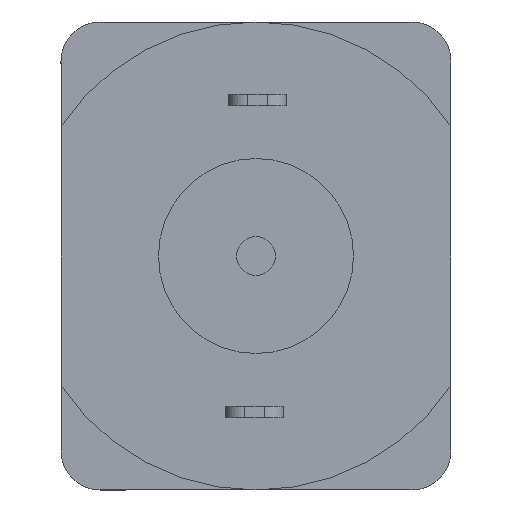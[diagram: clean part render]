
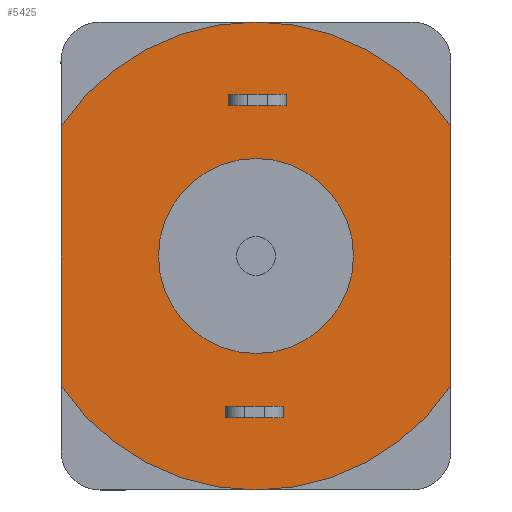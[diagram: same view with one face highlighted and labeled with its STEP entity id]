
A CAD part, front view. The second image highlights one B-rep face of the part: STEP entity #5425.
In plain terms, the highlighted planar face has unit normal (0, -1, 0).
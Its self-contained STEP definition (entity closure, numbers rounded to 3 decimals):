
#261=FACE_BOUND('',#1025,.T.);
#262=FACE_BOUND('',#1026,.T.);
#263=FACE_BOUND('',#1027,.T.);
#366=PLANE('',#6410);
#663=FACE_OUTER_BOUND('',#1024,.T.);
#1024=EDGE_LOOP('',(#4927,#4928,#4929,#4930));
#1025=EDGE_LOOP('',(#4931,#4932,#4933,#4934));
#1026=EDGE_LOOP('',(#4935,#4936,#4937,#4938));
#1027=EDGE_LOOP('',(#4939));
#1353=LINE('',#9746,#1718);
#1356=LINE('',#9752,#1721);
#1359=LINE('',#9758,#1724);
#1362=LINE('',#9762,#1727);
#1365=LINE('',#9770,#1730);
#1368=LINE('',#9776,#1733);
#1371=LINE('',#9782,#1736);
#1374=LINE('',#9786,#1739);
#1385=LINE('',#9828,#1750);
#1390=LINE('',#9842,#1755);
#1718=VECTOR('',#8110,10.);
#1721=VECTOR('',#8115,10.);
#1724=VECTOR('',#8120,10.);
#1727=VECTOR('',#8125,10.);
#1730=VECTOR('',#8130,10.);
#1733=VECTOR('',#8135,10.);
#1736=VECTOR('',#8140,10.);
#1739=VECTOR('',#8145,10.);
#1750=VECTOR('',#8190,10.);
#1755=VECTOR('',#8203,10.);
#2143=CIRCLE('',#6390,2.5);
#2148=CIRCLE('',#6403,6.);
#2150=CIRCLE('',#6407,6.);
#2623=VERTEX_POINT('',#9743);
#2624=VERTEX_POINT('',#9745);
#2626=VERTEX_POINT('',#9751);
#2628=VERTEX_POINT('',#9757);
#2631=VERTEX_POINT('',#9767);
#2632=VERTEX_POINT('',#9769);
#2634=VERTEX_POINT('',#9775);
#2636=VERTEX_POINT('',#9781);
#2640=VERTEX_POINT('',#9796);
#2649=VERTEX_POINT('',#9826);
#2650=VERTEX_POINT('',#9827);
#2653=VERTEX_POINT('',#9835);
#2655=VERTEX_POINT('',#9841);
#3366=EDGE_CURVE('',#2624,#2623,#1353,.T.);
#3369=EDGE_CURVE('',#2626,#2624,#1356,.T.);
#3372=EDGE_CURVE('',#2628,#2626,#1359,.T.);
#3375=EDGE_CURVE('',#2623,#2628,#1362,.T.);
#3378=EDGE_CURVE('',#2632,#2631,#1365,.T.);
#3381=EDGE_CURVE('',#2634,#2632,#1368,.T.);
#3384=EDGE_CURVE('',#2636,#2634,#1371,.T.);
#3387=EDGE_CURVE('',#2631,#2636,#1374,.T.);
#3393=EDGE_CURVE('',#2640,#2640,#2143,.T.);
#3406=EDGE_CURVE('',#2649,#2650,#1385,.T.);
#3410=EDGE_CURVE('',#2653,#2649,#2148,.T.);
#3413=EDGE_CURVE('',#2655,#2653,#1390,.T.);
#3416=EDGE_CURVE('',#2650,#2655,#2150,.T.);
#4927=ORIENTED_EDGE('',*,*,#3416,.F.);
#4928=ORIENTED_EDGE('',*,*,#3406,.F.);
#4929=ORIENTED_EDGE('',*,*,#3410,.F.);
#4930=ORIENTED_EDGE('',*,*,#3413,.F.);
#4931=ORIENTED_EDGE('',*,*,#3366,.T.);
#4932=ORIENTED_EDGE('',*,*,#3375,.T.);
#4933=ORIENTED_EDGE('',*,*,#3372,.T.);
#4934=ORIENTED_EDGE('',*,*,#3369,.T.);
#4935=ORIENTED_EDGE('',*,*,#3378,.T.);
#4936=ORIENTED_EDGE('',*,*,#3387,.T.);
#4937=ORIENTED_EDGE('',*,*,#3384,.T.);
#4938=ORIENTED_EDGE('',*,*,#3381,.T.);
#4939=ORIENTED_EDGE('',*,*,#3393,.T.);
#5425=ADVANCED_FACE('',(#663,#261,#262,#263),#366,.F.);
#6390=AXIS2_PLACEMENT_3D('',#9798,#8158,#8159);
#6403=AXIS2_PLACEMENT_3D('',#9836,#8196,#8197);
#6407=AXIS2_PLACEMENT_3D('',#9847,#8208,#8209);
#6410=AXIS2_PLACEMENT_3D('',#9850,#8214,#8215);
#8110=DIRECTION('',(0.,0.,-1.));
#8115=DIRECTION('',(1.,0.,0.));
#8120=DIRECTION('',(0.,0.,1.));
#8125=DIRECTION('',(-1.,0.,0.));
#8130=DIRECTION('',(0.,0.,-1.));
#8135=DIRECTION('',(1.,0.,0.));
#8140=DIRECTION('',(0.,0.,1.));
#8145=DIRECTION('',(-1.,0.,0.));
#8158=DIRECTION('center_axis',(0.,1.,0.));
#8159=DIRECTION('ref_axis',(1.,0.,0.));
#8190=DIRECTION('',(0.,0.,-1.));
#8196=DIRECTION('center_axis',(0.,1.,0.));
#8197=DIRECTION('ref_axis',(-0.833,0.,0.553));
#8203=DIRECTION('',(0.,0.,1.));
#8208=DIRECTION('center_axis',(0.,1.,0.));
#8209=DIRECTION('ref_axis',(0.833,0.,-0.553));
#8214=DIRECTION('center_axis',(0.,1.,0.));
#8215=DIRECTION('ref_axis',(1.,0.,0.));
#9743=CARTESIAN_POINT('',(0.788,0.,3.85));
#9745=CARTESIAN_POINT('',(0.788,0.,4.15));
#9746=CARTESIAN_POINT('',(0.788,0.,2.075));
#9751=CARTESIAN_POINT('',(-0.712,0.,4.15));
#9752=CARTESIAN_POINT('',(-0.356,0.,4.15));
#9757=CARTESIAN_POINT('',(-0.712,0.,3.85));
#9758=CARTESIAN_POINT('',(-0.712,0.,1.925));
#9762=CARTESIAN_POINT('',(0.394,0.,3.85));
#9767=CARTESIAN_POINT('',(0.712,0.,-4.15));
#9769=CARTESIAN_POINT('',(0.712,0.,-3.85));
#9770=CARTESIAN_POINT('',(0.712,0.,-1.925));
#9775=CARTESIAN_POINT('',(-0.788,0.,-3.85));
#9776=CARTESIAN_POINT('',(-0.394,0.,-3.85));
#9781=CARTESIAN_POINT('',(-0.788,0.,-4.15));
#9782=CARTESIAN_POINT('',(-0.788,0.,-2.075));
#9786=CARTESIAN_POINT('',(0.356,0.,-4.15));
#9796=CARTESIAN_POINT('',(-2.5,0.,0.));
#9798=CARTESIAN_POINT('Origin',(0.,0.,0.));
#9826=CARTESIAN_POINT('',(5.,0.,3.317));
#9827=CARTESIAN_POINT('',(5.,0.,-3.317));
#9828=CARTESIAN_POINT('',(5.,0.,3.317));
#9835=CARTESIAN_POINT('',(-5.,0.,3.317));
#9836=CARTESIAN_POINT('Origin',(0.,0.,0.));
#9841=CARTESIAN_POINT('',(-5.,0.,-3.317));
#9842=CARTESIAN_POINT('',(-5.,0.,-3.317));
#9847=CARTESIAN_POINT('Origin',(0.,0.,0.));
#9850=CARTESIAN_POINT('Origin',(0.,0.,0.));
